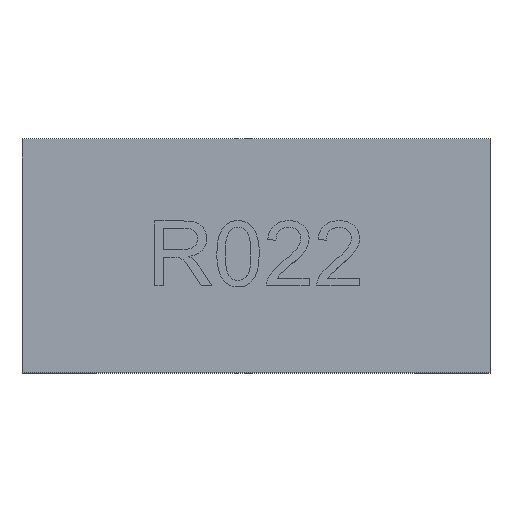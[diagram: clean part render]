
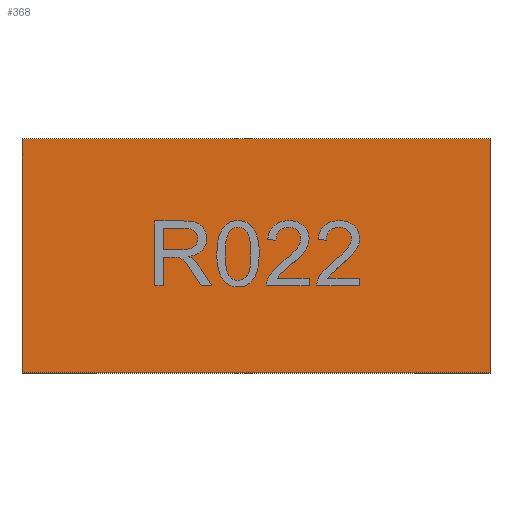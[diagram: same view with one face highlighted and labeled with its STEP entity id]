
A CAD part, top view. The second image highlights one B-rep face of the part: STEP entity #368.
In plain terms, the highlighted planar face has unit normal (0, 0, 1).
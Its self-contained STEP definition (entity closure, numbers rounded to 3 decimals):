
#54 = VERTEX_POINT('',#55);
#55 = CARTESIAN_POINT('',(-1.6,-0.8,0.635));
#62 = PLANE('',#63);
#63 = AXIS2_PLACEMENT_3D('',#64,#65,#66);
#64 = CARTESIAN_POINT('',(-1.6,-0.8,0.08));
#65 = DIRECTION('',(1.,0.,0.));
#66 = DIRECTION('',(0.,0.,1.));
#74 = PLANE('',#75);
#75 = AXIS2_PLACEMENT_3D('',#76,#77,#78);
#76 = CARTESIAN_POINT('',(-1.6,-0.8,0.08));
#77 = DIRECTION('',(0.,1.,0.));
#78 = DIRECTION('',(0.,0.,1.));
#115 = VERTEX_POINT('',#116);
#116 = CARTESIAN_POINT('',(-1.6,0.8,0.635));
#130 = PLANE('',#131);
#131 = AXIS2_PLACEMENT_3D('',#132,#133,#134);
#132 = CARTESIAN_POINT('',(-1.6,0.8,0.08));
#133 = DIRECTION('',(0.,1.,0.));
#134 = DIRECTION('',(0.,0.,1.));
#142 = EDGE_CURVE('',#54,#115,#143,.T.);
#143 = SURFACE_CURVE('',#144,(#148,#155),.PCURVE_S1.);
#144 = LINE('',#145,#146);
#145 = CARTESIAN_POINT('',(-1.6,-0.8,0.635));
#146 = VECTOR('',#147,1.);
#147 = DIRECTION('',(0.,1.,0.));
#148 = PCURVE('',#62,#149);
#149 = DEFINITIONAL_REPRESENTATION('',(#150),#154);
#150 = LINE('',#151,#152);
#151 = CARTESIAN_POINT('',(0.555,0.));
#152 = VECTOR('',#153,1.);
#153 = DIRECTION('',(0.,-1.));
#154 = ( GEOMETRIC_REPRESENTATION_CONTEXT(2) 
PARAMETRIC_REPRESENTATION_CONTEXT() REPRESENTATION_CONTEXT('2D SPACE',''
  ) );
#155 = PCURVE('',#156,#161);
#156 = PLANE('',#157);
#157 = AXIS2_PLACEMENT_3D('',#158,#159,#160);
#158 = CARTESIAN_POINT('',(-1.6,-0.8,0.635));
#159 = DIRECTION('',(0.,0.,1.));
#160 = DIRECTION('',(1.,0.,0.));
#161 = DEFINITIONAL_REPRESENTATION('',(#162),#166);
#162 = LINE('',#163,#164);
#163 = CARTESIAN_POINT('',(0.,0.));
#164 = VECTOR('',#165,1.);
#165 = DIRECTION('',(0.,1.));
#166 = ( GEOMETRIC_REPRESENTATION_CONTEXT(2) 
PARAMETRIC_REPRESENTATION_CONTEXT() REPRESENTATION_CONTEXT('2D SPACE',''
  ) );
#174 = VERTEX_POINT('',#175);
#175 = CARTESIAN_POINT('',(1.6,-0.8,0.635));
#182 = PLANE('',#183);
#183 = AXIS2_PLACEMENT_3D('',#184,#185,#186);
#184 = CARTESIAN_POINT('',(1.6,-0.8,0.08));
#185 = DIRECTION('',(1.,0.,0.));
#186 = DIRECTION('',(0.,0.,1.));
#225 = VERTEX_POINT('',#226);
#226 = CARTESIAN_POINT('',(1.6,0.8,0.635));
#247 = EDGE_CURVE('',#174,#225,#248,.T.);
#248 = SURFACE_CURVE('',#249,(#253,#260),.PCURVE_S1.);
#249 = LINE('',#250,#251);
#250 = CARTESIAN_POINT('',(1.6,-0.8,0.635));
#251 = VECTOR('',#252,1.);
#252 = DIRECTION('',(0.,1.,0.));
#253 = PCURVE('',#182,#254);
#254 = DEFINITIONAL_REPRESENTATION('',(#255),#259);
#255 = LINE('',#256,#257);
#256 = CARTESIAN_POINT('',(0.555,0.));
#257 = VECTOR('',#258,1.);
#258 = DIRECTION('',(0.,-1.));
#259 = ( GEOMETRIC_REPRESENTATION_CONTEXT(2) 
PARAMETRIC_REPRESENTATION_CONTEXT() REPRESENTATION_CONTEXT('2D SPACE',''
  ) );
#260 = PCURVE('',#156,#261);
#261 = DEFINITIONAL_REPRESENTATION('',(#262),#266);
#262 = LINE('',#263,#264);
#263 = CARTESIAN_POINT('',(3.2,0.));
#264 = VECTOR('',#265,1.);
#265 = DIRECTION('',(0.,1.));
#266 = ( GEOMETRIC_REPRESENTATION_CONTEXT(2) 
PARAMETRIC_REPRESENTATION_CONTEXT() REPRESENTATION_CONTEXT('2D SPACE',''
  ) );
#293 = EDGE_CURVE('',#54,#174,#294,.T.);
#294 = SURFACE_CURVE('',#295,(#299,#306),.PCURVE_S1.);
#295 = LINE('',#296,#297);
#296 = CARTESIAN_POINT('',(-1.6,-0.8,0.635));
#297 = VECTOR('',#298,1.);
#298 = DIRECTION('',(1.,0.,0.));
#299 = PCURVE('',#74,#300);
#300 = DEFINITIONAL_REPRESENTATION('',(#301),#305);
#301 = LINE('',#302,#303);
#302 = CARTESIAN_POINT('',(0.555,0.));
#303 = VECTOR('',#304,1.);
#304 = DIRECTION('',(0.,1.));
#305 = ( GEOMETRIC_REPRESENTATION_CONTEXT(2) 
PARAMETRIC_REPRESENTATION_CONTEXT() REPRESENTATION_CONTEXT('2D SPACE',''
  ) );
#306 = PCURVE('',#156,#307);
#307 = DEFINITIONAL_REPRESENTATION('',(#308),#312);
#308 = LINE('',#309,#310);
#309 = CARTESIAN_POINT('',(0.,0.));
#310 = VECTOR('',#311,1.);
#311 = DIRECTION('',(1.,0.));
#312 = ( GEOMETRIC_REPRESENTATION_CONTEXT(2) 
PARAMETRIC_REPRESENTATION_CONTEXT() REPRESENTATION_CONTEXT('2D SPACE',''
  ) );
#340 = EDGE_CURVE('',#115,#225,#341,.T.);
#341 = SURFACE_CURVE('',#342,(#346,#353),.PCURVE_S1.);
#342 = LINE('',#343,#344);
#343 = CARTESIAN_POINT('',(-1.6,0.8,0.635));
#344 = VECTOR('',#345,1.);
#345 = DIRECTION('',(1.,0.,0.));
#346 = PCURVE('',#130,#347);
#347 = DEFINITIONAL_REPRESENTATION('',(#348),#352);
#348 = LINE('',#349,#350);
#349 = CARTESIAN_POINT('',(0.555,0.));
#350 = VECTOR('',#351,1.);
#351 = DIRECTION('',(0.,1.));
#352 = ( GEOMETRIC_REPRESENTATION_CONTEXT(2) 
PARAMETRIC_REPRESENTATION_CONTEXT() REPRESENTATION_CONTEXT('2D SPACE',''
  ) );
#353 = PCURVE('',#156,#354);
#354 = DEFINITIONAL_REPRESENTATION('',(#355),#359);
#355 = LINE('',#356,#357);
#356 = CARTESIAN_POINT('',(0.,1.6));
#357 = VECTOR('',#358,1.);
#358 = DIRECTION('',(1.,0.));
#359 = ( GEOMETRIC_REPRESENTATION_CONTEXT(2) 
PARAMETRIC_REPRESENTATION_CONTEXT() REPRESENTATION_CONTEXT('2D SPACE',''
  ) );
#368 = ADVANCED_FACE('',(#369),#156,.T.);
#369 = FACE_BOUND('',#370,.T.);
#370 = EDGE_LOOP('',(#371,#372,#373,#374));
#371 = ORIENTED_EDGE('',*,*,#142,.F.);
#372 = ORIENTED_EDGE('',*,*,#293,.T.);
#373 = ORIENTED_EDGE('',*,*,#247,.T.);
#374 = ORIENTED_EDGE('',*,*,#340,.F.);
